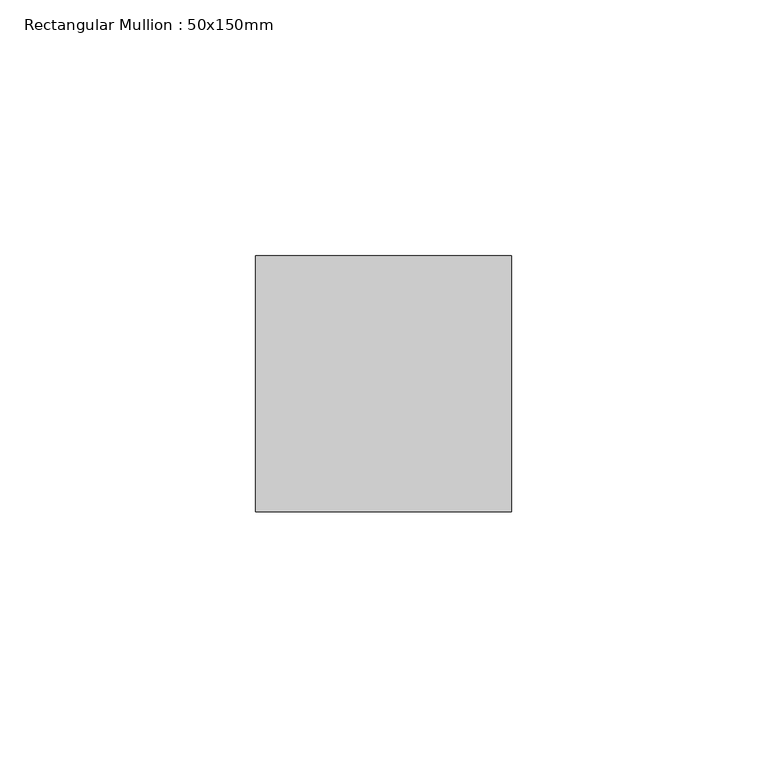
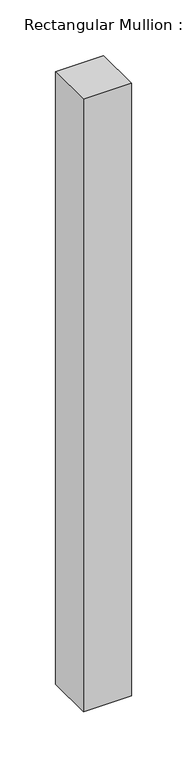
"""IFC4 building model written with IfcOpenShell, lengths in millimetres: member geometry, Rectangular Mullion : 50x150mm."""

from ifc_helpers import new_model, si_unit, frame, origin, place, context, project, spatial, polyline, outline, extrude, source, transform, mapped, element, save


def rectangular_mullion_50x150mm_baa92764(model_context):
    return source(origin(), model_context, "Body", "SweptSolid", [
        extrude(outline(polyline([(0.0, 25.0), (0.0, -25.0), (-50.0, -25.0), (-50.0, 25.0), (0.0, 25.0)])), frame((0.0, 0.0, -671.6666667), z_axis=(0.0, 0.0, 1.0), x_axis=(1.0, 0.0, 0.0)), (0.0, 0.0, 1.0), 671.6666667),
    ])


if __name__ == "__main__":
    model = new_model("IFC4")
    model_context = context("Model", 3, world=origin())
    ifc_project = project(units=[si_unit("LENGTHUNIT", "METRE", prefix="MILLI")], contexts=[model_context])
    site = spatial("IfcSite", under=ifc_project)
    building = spatial("IfcBuilding", under=site)
    placement = place(None, origin())
    rectangular_mullion_50x150mm_shape = rectangular_mullion_50x150mm_baa92764(model_context)
    element("IfcMember", 1, ObjectType="Rectangular Mullion : 50x150mm", at=placement, inside=building, context=model_context, shape_type="MappedRepresentation", body=[
        mapped(rectangular_mullion_50x150mm_shape, transform((0.0, 0.0, 0.0), x_axis=(1.0, 0.0, 0.0), y_axis=(0.0, 1.0, 0.0), z_axis=(0.0, 0.0, 1.0))),
    ])
    save(model, "model.ifc")
